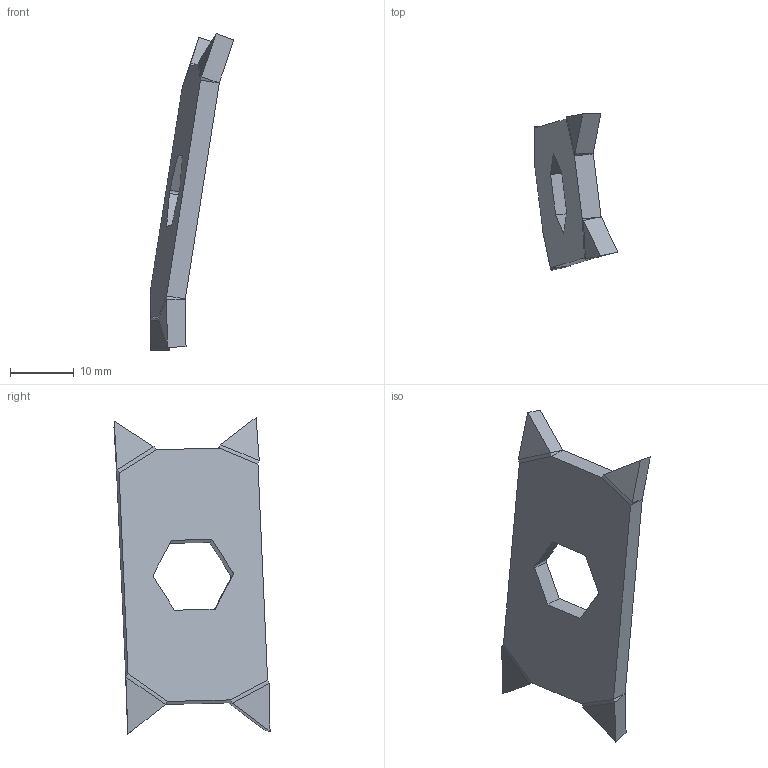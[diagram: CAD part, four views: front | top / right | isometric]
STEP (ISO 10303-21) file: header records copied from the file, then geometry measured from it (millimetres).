
FILE_DESCRIPTION(/* description */ (''),/* implementation_level */ '2;1');
FILE_NAME(/* name */ '\\192.168.101.115\営業本部\EG\X2\30BB30F330BF30FC\X0\\99_各個人\08_中村紗\３Ｄ\MDR○○切替用\取付金具P-0C1.stp',/* time_stamp */ '2014-12-19T09:21:50+09:00',/* author */ ('UMME'),/* organization */ (''),/* preprocessor_version */ 'ST-DEVELOPER v15.2',/* originating_system */ 'Autodesk Inventor 2014',/* authorisation */ '');
FILE_SCHEMA (('AUTOMOTIVE_DESIGN { 1 0 10303 214 3 1 1 }'));
Length unit declared in the file: millimetre
Products named in the file (1): 取付金具P-0C1
Bounding box: 13.16 x 24.48 x 49.69 mm (x, y, z)
Volume: 2506 mm3; surface area: 2236.4 mm2
Topology: 1 solids, 1 shells, 46 faces, 103 edges, 59 vertices
Faces by surface type: plane 28, cylinder 10, bspline 8
Entity records: 1359 total; most frequent: CARTESIAN_POINT 377, ORIENTED_EDGE 206, DIRECTION 169, EDGE_CURVE 103, LINE 83, VECTOR 83, VERTEX_POINT 59, EDGE_LOOP 48
